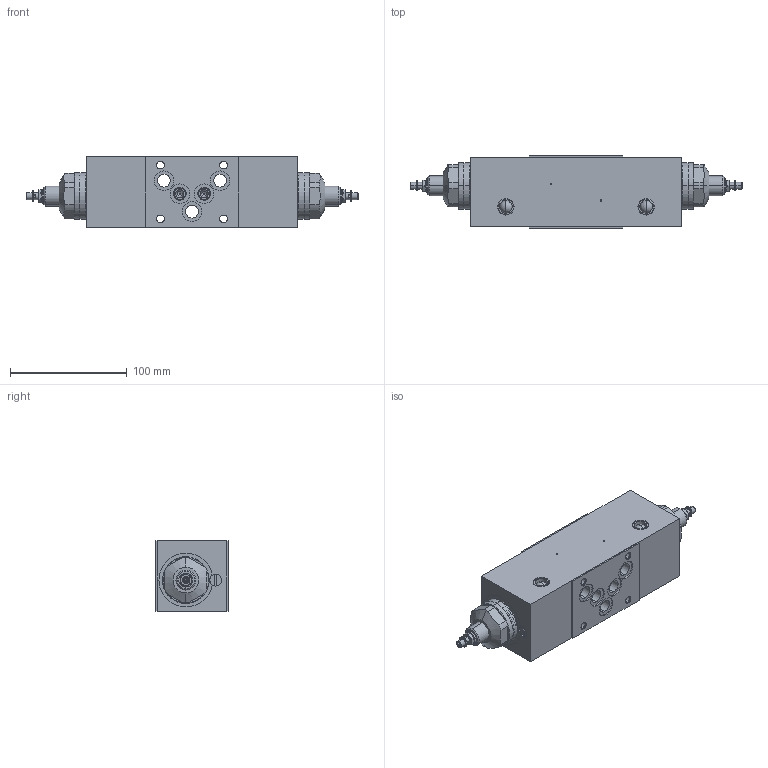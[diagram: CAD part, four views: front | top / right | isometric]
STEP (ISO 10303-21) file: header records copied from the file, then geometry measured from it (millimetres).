
FILE_DESCRIPTION (( 'STEP AP214' ), '1' );
FILE_NAME ('QZSSA10-ABV.STEP', '2017-04-12T14:01:37', ( '' ), ( '' ), 'SwSTEP 2.0', 'SolidWorks 2016', '' );
FILE_SCHEMA (( 'AUTOMOTIVE_DESIGN' ));
Length unit declared in the file: millimetre
Products named in the file (1): QZSSA10-ABV
Bounding box: 284 x 62 x 60 mm (x, y, z)
Volume: 674132.8 mm3; surface area: 95044.5 mm2
Topology: 6 solids, 10 shells, 615 faces, 1514 edges, 960 vertices
Faces by surface type: cylinder 282, plane 197, cone 84, torus 44, sphere 8
Entity records: 26169 total; most frequent: CARTESIAN_POINT 4942, DIRECTION 3174, ORIENTED_EDGE 3004, EDGE_CURVE 1502, AXIS2_PLACEMENT_3D 1336, VERTEX_POINT 960, EDGE_LOOP 734, CIRCLE 720
